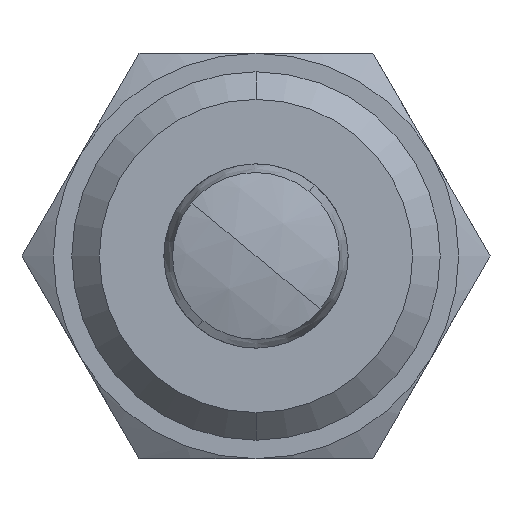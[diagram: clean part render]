
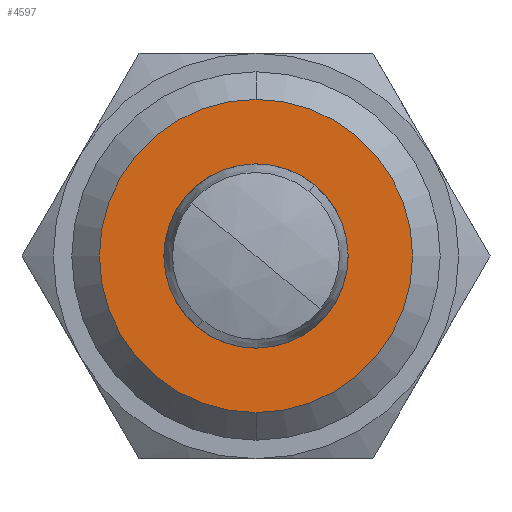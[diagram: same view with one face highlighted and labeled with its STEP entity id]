
A CAD part, front view. The second image highlights one B-rep face of the part: STEP entity #4597.
In plain terms, the highlighted planar face has unit normal (0, -1, 0).
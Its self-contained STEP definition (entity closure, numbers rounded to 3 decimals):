
#308 = VERTEX_POINT ( 'NONE', #1589 ) ;
#333 = EDGE_CURVE ( 'NONE', #334, #308, #1673, .T. ) ;
#334 = VERTEX_POINT ( 'NONE', #1668 ) ;
#1589 = CARTESIAN_POINT ( 'NONE',  ( 0., -33., 8.5 ) ) ;
#1668 = CARTESIAN_POINT ( 'NONE',  ( 0., -33., -8.5 ) ) ;
#1669 = DIRECTION ( 'NONE',  ( 0., 0., 1. ) ) ;
#1670 = DIRECTION ( 'NONE',  ( 0., -1., 0. ) ) ;
#1671 = CARTESIAN_POINT ( 'NONE',  ( 0., -33., 0. ) ) ;
#1672 = AXIS2_PLACEMENT_3D ( 'NONE', #1671, #1670, #1669 ) ;
#1673 = CIRCLE ( 'NONE', #1672, 8.5 ) ;
#1940 = VERTEX_POINT ( 'NONE', #2664 ) ;
#1952 = VERTEX_POINT ( 'NONE', #2663 ) ;
#1991 = EDGE_CURVE ( 'NONE', #1952, #1940, #2732, .T. ) ;
#2663 = CARTESIAN_POINT ( 'NONE',  ( 0., -33., -5. ) ) ;
#2664 = CARTESIAN_POINT ( 'NONE',  ( 0., -33., 5. ) ) ;
#2728 = DIRECTION ( 'NONE',  ( 0., 0., 1. ) ) ;
#2729 = DIRECTION ( 'NONE',  ( 0., 1., 0. ) ) ;
#2730 = CARTESIAN_POINT ( 'NONE',  ( 0., -33., 0. ) ) ;
#2731 = AXIS2_PLACEMENT_3D ( 'NONE', #2730, #2729, #2728 ) ;
#2732 = CIRCLE ( 'NONE', #2731, 5. ) ;
#2751 = DIRECTION ( 'NONE',  ( 0., 0., 1. ) ) ;
#2752 = DIRECTION ( 'NONE',  ( 0., 1., 0. ) ) ;
#2753 = CARTESIAN_POINT ( 'NONE',  ( 0., -33., 0. ) ) ;
#2754 = AXIS2_PLACEMENT_3D ( 'NONE', #2753, #2752, #2751 ) ;
#2755 = CIRCLE ( 'NONE', #2754, 5. ) ;
#3170 = EDGE_CURVE ( 'NONE', #1940, #1952, #2755, .T. ) ;
#3207 = DIRECTION ( 'NONE',  ( 0., 0., 1. ) ) ;
#3208 = DIRECTION ( 'NONE',  ( 0., -1., 0. ) ) ;
#3209 = CARTESIAN_POINT ( 'NONE',  ( 0., -33., 0. ) ) ;
#3210 = AXIS2_PLACEMENT_3D ( 'NONE', #3209, #3208, #3207 ) ;
#3211 = CIRCLE ( 'NONE', #3210, 8.5 ) ;
#3225 = DIRECTION ( 'NONE',  ( 0., 0., 1. ) ) ;
#3226 = DIRECTION ( 'NONE',  ( 0., 1., 0. ) ) ;
#3227 = CARTESIAN_POINT ( 'NONE',  ( 0., -33., 0. ) ) ;
#3228 = AXIS2_PLACEMENT_3D ( 'NONE', #3227, #3226, #3225 ) ;
#3229 = PLANE ( 'NONE',  #3228 ) ;
#3230 = FACE_BOUND ( 'NONE', #4581, .T. ) ;
#3243 = FACE_OUTER_BOUND ( 'NONE', #4574, .T. ) ;
#4561 = ORIENTED_EDGE ( 'NONE', *, *, #1991, .T. ) ;
#4574 = EDGE_LOOP ( 'NONE', ( #4578, #4580 ) ) ;
#4576 = ORIENTED_EDGE ( 'NONE', *, *, #3170, .T. ) ;
#4578 = ORIENTED_EDGE ( 'NONE', *, *, #4582, .T. ) ;
#4580 = ORIENTED_EDGE ( 'NONE', *, *, #333, .T. ) ;
#4581 = EDGE_LOOP ( 'NONE', ( #4576, #4561 ) ) ;
#4582 = EDGE_CURVE ( 'NONE', #308, #334, #3211, .T. ) ;
#4597 = ADVANCED_FACE ( 'NONE', ( #3243, #3230 ), #3229, .F. ) ;
